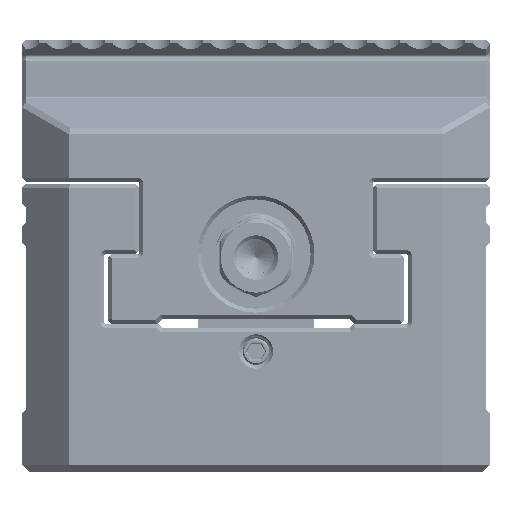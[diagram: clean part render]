
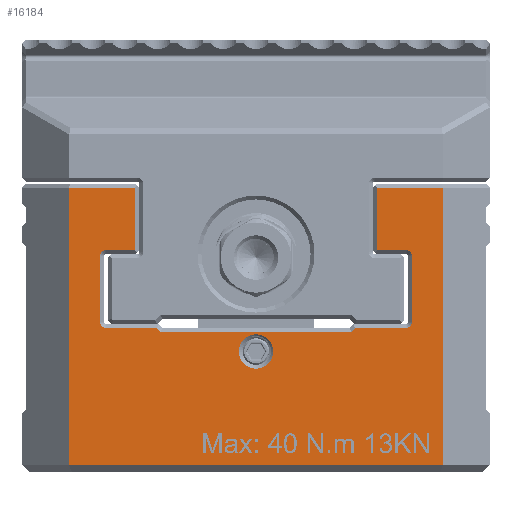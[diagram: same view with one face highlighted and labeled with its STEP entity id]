
A CAD part, front view. The second image highlights one B-rep face of the part: STEP entity #16184.
In plain terms, the highlighted planar face has unit normal (0, -1, 0).
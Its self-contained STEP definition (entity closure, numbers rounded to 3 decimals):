
#4067=LINE('',#86805,#5825);
#4069=LINE('',#86809,#5827);
#4074=LINE('',#86819,#5832);
#4084=LINE('',#86838,#5842);
#4085=LINE('',#86840,#5843);
#4086=LINE('',#86842,#5844);
#4087=LINE('',#86846,#5845);
#4088=LINE('',#86850,#5846);
#4089=LINE('',#86852,#5847);
#4090=LINE('',#86854,#5848);
#4091=LINE('',#86856,#5849);
#4092=LINE('',#86858,#5850);
#4093=LINE('',#86862,#5851);
#4094=LINE('',#86866,#5852);
#4095=LINE('',#86868,#5853);
#4096=LINE('',#86870,#5854);
#5825=VECTOR('',#38627,1.);
#5827=VECTOR('',#38631,1.);
#5832=VECTOR('',#38638,1.);
#5842=VECTOR('',#38656,1.);
#5843=VECTOR('',#38657,1.);
#5844=VECTOR('',#38658,1.);
#5845=VECTOR('',#38661,1.);
#5846=VECTOR('',#38664,1.);
#5847=VECTOR('',#38665,1.);
#5848=VECTOR('',#38666,1.);
#5849=VECTOR('',#38667,1.);
#5850=VECTOR('',#38668,1.);
#5851=VECTOR('',#38671,1.);
#5852=VECTOR('',#38674,1.);
#5853=VECTOR('',#38675,1.);
#5854=VECTOR('',#38676,1.);
#15374=FACE_BOUND('',#19881,.T.);
#15375=FACE_BOUND('',#19882,.T.);
#16184=ADVANCED_FACE('',(#15374,#15375),#17380,.F.);
#17380=PLANE('',#34874);
#19881=EDGE_LOOP('',(#23859,#23860,#23861,#23862,#23863,#23864,#23865,#23866,
#23867,#23868,#23869,#23870,#23871,#23872,#23873,#23874,#23875,#23876,#23877,
#23878));
#19882=EDGE_LOOP('',(#23879));
#23859=ORIENTED_EDGE('',*,*,#31659,.T.);
#23860=ORIENTED_EDGE('',*,*,#31669,.T.);
#23861=ORIENTED_EDGE('',*,*,#31670,.T.);
#23862=ORIENTED_EDGE('',*,*,#31671,.T.);
#23863=ORIENTED_EDGE('',*,*,#31672,.T.);
#23864=ORIENTED_EDGE('',*,*,#31673,.T.);
#23865=ORIENTED_EDGE('',*,*,#31674,.T.);
#23866=ORIENTED_EDGE('',*,*,#31675,.T.);
#23867=ORIENTED_EDGE('',*,*,#31676,.T.);
#23868=ORIENTED_EDGE('',*,*,#31677,.T.);
#23869=ORIENTED_EDGE('',*,*,#31678,.T.);
#23870=ORIENTED_EDGE('',*,*,#31679,.T.);
#23871=ORIENTED_EDGE('',*,*,#31680,.T.);
#23872=ORIENTED_EDGE('',*,*,#31681,.T.);
#23873=ORIENTED_EDGE('',*,*,#31682,.T.);
#23874=ORIENTED_EDGE('',*,*,#31683,.T.);
#23875=ORIENTED_EDGE('',*,*,#31684,.T.);
#23876=ORIENTED_EDGE('',*,*,#31685,.T.);
#23877=ORIENTED_EDGE('',*,*,#31654,.T.);
#23878=ORIENTED_EDGE('',*,*,#31652,.T.);
#23879=ORIENTED_EDGE('',*,*,#31633,.T.);
#28830=VERTEX_POINT('',#86730);
#28843=VERTEX_POINT('',#86804);
#28844=VERTEX_POINT('',#86806);
#28845=VERTEX_POINT('',#86810);
#28848=VERTEX_POINT('',#86818);
#28854=VERTEX_POINT('',#86839);
#28855=VERTEX_POINT('',#86841);
#28856=VERTEX_POINT('',#86843);
#28857=VERTEX_POINT('',#86845);
#28858=VERTEX_POINT('',#86847);
#28859=VERTEX_POINT('',#86849);
#28860=VERTEX_POINT('',#86851);
#28861=VERTEX_POINT('',#86853);
#28862=VERTEX_POINT('',#86855);
#28863=VERTEX_POINT('',#86857);
#28864=VERTEX_POINT('',#86859);
#28865=VERTEX_POINT('',#86861);
#28866=VERTEX_POINT('',#86863);
#28867=VERTEX_POINT('',#86865);
#28868=VERTEX_POINT('',#86867);
#28869=VERTEX_POINT('',#86869);
#31633=EDGE_CURVE('',#28830,#28830,#33822,.T.);
#31652=EDGE_CURVE('',#28844,#28843,#4067,.T.);
#31654=EDGE_CURVE('',#28845,#28844,#4069,.T.);
#31659=EDGE_CURVE('',#28843,#28848,#4074,.T.);
#31669=EDGE_CURVE('',#28848,#28854,#4084,.T.);
#31670=EDGE_CURVE('',#28854,#28855,#4085,.T.);
#31671=EDGE_CURVE('',#28855,#28856,#4086,.T.);
#31672=EDGE_CURVE('',#28856,#28857,#33825,.T.);
#31673=EDGE_CURVE('',#28857,#28858,#4087,.T.);
#31674=EDGE_CURVE('',#28858,#28859,#33826,.T.);
#31675=EDGE_CURVE('',#28859,#28860,#4088,.T.);
#31676=EDGE_CURVE('',#28860,#28861,#4089,.T.);
#31677=EDGE_CURVE('',#28861,#28862,#4090,.T.);
#31678=EDGE_CURVE('',#28862,#28863,#4091,.T.);
#31679=EDGE_CURVE('',#28863,#28864,#4092,.T.);
#31680=EDGE_CURVE('',#28864,#28865,#33827,.T.);
#31681=EDGE_CURVE('',#28865,#28866,#4093,.T.);
#31682=EDGE_CURVE('',#28866,#28867,#33828,.T.);
#31683=EDGE_CURVE('',#28867,#28868,#4094,.T.);
#31684=EDGE_CURVE('',#28868,#28869,#4095,.T.);
#31685=EDGE_CURVE('',#28869,#28845,#4096,.T.);
#33822=CIRCLE('',#34852,2.2);
#33825=CIRCLE('',#34870,0.8);
#33826=CIRCLE('',#34871,0.8);
#33827=CIRCLE('',#34872,0.8);
#33828=CIRCLE('',#34873,0.8);
#34852=AXIS2_PLACEMENT_3D('',#86729,#38593,#38594);
#34870=AXIS2_PLACEMENT_3D('',#86844,#38659,#38660);
#34871=AXIS2_PLACEMENT_3D('',#86848,#38662,#38663);
#34872=AXIS2_PLACEMENT_3D('',#86860,#38669,#38670);
#34873=AXIS2_PLACEMENT_3D('',#86864,#38672,#38673);
#34874=AXIS2_PLACEMENT_3D('',#86871,#38677,#38678);
#38593=DIRECTION('',(0.,1.,0.));
#38594=DIRECTION('',(0.,0.,-1.));
#38627=DIRECTION('',(1.,0.,0.));
#38631=DIRECTION('',(0.,0.,-1.));
#38638=DIRECTION('',(0.,0.,1.));
#38656=DIRECTION('',(-1.,0.,0.));
#38657=DIRECTION('',(0.,0.,-1.));
#38658=DIRECTION('',(1.,0.,0.));
#38659=DIRECTION('',(0.,1.,0.));
#38660=DIRECTION('',(0.,0.,-1.));
#38661=DIRECTION('',(0.,0.,-1.));
#38662=DIRECTION('',(0.,1.,0.));
#38663=DIRECTION('',(0.,0.,-1.));
#38664=DIRECTION('',(-1.,0.,0.));
#38665=DIRECTION('',(-0.707,0.,-0.707));
#38666=DIRECTION('',(-1.,0.,0.));
#38667=DIRECTION('',(-0.707,0.,0.707));
#38668=DIRECTION('',(-1.,0.,0.));
#38669=DIRECTION('',(0.,1.,0.));
#38670=DIRECTION('',(0.,0.,-1.));
#38671=DIRECTION('',(0.,0.,1.));
#38672=DIRECTION('',(0.,1.,0.));
#38673=DIRECTION('',(0.,0.,-1.));
#38674=DIRECTION('',(1.,0.,0.));
#38675=DIRECTION('',(0.,0.,1.));
#38676=DIRECTION('',(-1.,0.,0.));
#38677=DIRECTION('',(0.,1.,0.));
#38678=DIRECTION('',(0.,0.,-1.));
#86729=CARTESIAN_POINT('',(0.,-50.,15.5));
#86730=CARTESIAN_POINT('',(0.,-50.,13.3));
#86804=CARTESIAN_POINT('',(24.,-50.,1.));
#86805=CARTESIAN_POINT('',(0.,-50.,1.));
#86806=CARTESIAN_POINT('',(-24.,-50.,1.));
#86809=CARTESIAN_POINT('',(-24.,-50.,0.));
#86810=CARTESIAN_POINT('',(-24.,-50.,36.5));
#86818=CARTESIAN_POINT('',(24.,-50.,36.5));
#86819=CARTESIAN_POINT('',(24.,-50.,0.));
#86838=CARTESIAN_POINT('',(0.,-50.,36.5));
#86839=CARTESIAN_POINT('',(15.5,-50.,36.5));
#86840=CARTESIAN_POINT('',(15.5,-50.,0.));
#86841=CARTESIAN_POINT('',(15.5,-50.,28.5));
#86842=CARTESIAN_POINT('',(0.,-50.,28.5));
#86843=CARTESIAN_POINT('',(19.2,-50.,28.5));
#86844=CARTESIAN_POINT('',(19.2,-50.,27.7));
#86845=CARTESIAN_POINT('',(20.,-50.,27.7));
#86846=CARTESIAN_POINT('',(20.,-50.,0.));
#86847=CARTESIAN_POINT('',(20.,-50.,19.3));
#86848=CARTESIAN_POINT('',(19.2,-50.,19.3));
#86849=CARTESIAN_POINT('',(19.2,-50.,18.5));
#86850=CARTESIAN_POINT('',(0.,-50.,18.5));
#86851=CARTESIAN_POINT('',(12.707,-50.,18.5));
#86852=CARTESIAN_POINT('',(-2.896,-50.,2.896));
#86853=CARTESIAN_POINT('',(12.207,-50.,18.));
#86854=CARTESIAN_POINT('',(0.,-50.,18.));
#86855=CARTESIAN_POINT('',(-12.207,-50.,18.));
#86856=CARTESIAN_POINT('',(2.896,-50.,2.896));
#86857=CARTESIAN_POINT('',(-12.707,-50.,18.5));
#86858=CARTESIAN_POINT('',(0.,-50.,18.5));
#86859=CARTESIAN_POINT('',(-19.2,-50.,18.5));
#86860=CARTESIAN_POINT('',(-19.2,-50.,19.3));
#86861=CARTESIAN_POINT('',(-20.,-50.,19.3));
#86862=CARTESIAN_POINT('',(-20.,-50.,0.));
#86863=CARTESIAN_POINT('',(-20.,-50.,27.7));
#86864=CARTESIAN_POINT('',(-19.2,-50.,27.7));
#86865=CARTESIAN_POINT('',(-19.2,-50.,28.5));
#86866=CARTESIAN_POINT('',(0.,-50.,28.5));
#86867=CARTESIAN_POINT('',(-15.5,-50.,28.5));
#86868=CARTESIAN_POINT('',(-15.5,-50.,0.));
#86869=CARTESIAN_POINT('',(-15.5,-50.,36.5));
#86870=CARTESIAN_POINT('',(0.,-50.,36.5));
#86871=CARTESIAN_POINT('',(0.,-50.,0.));
